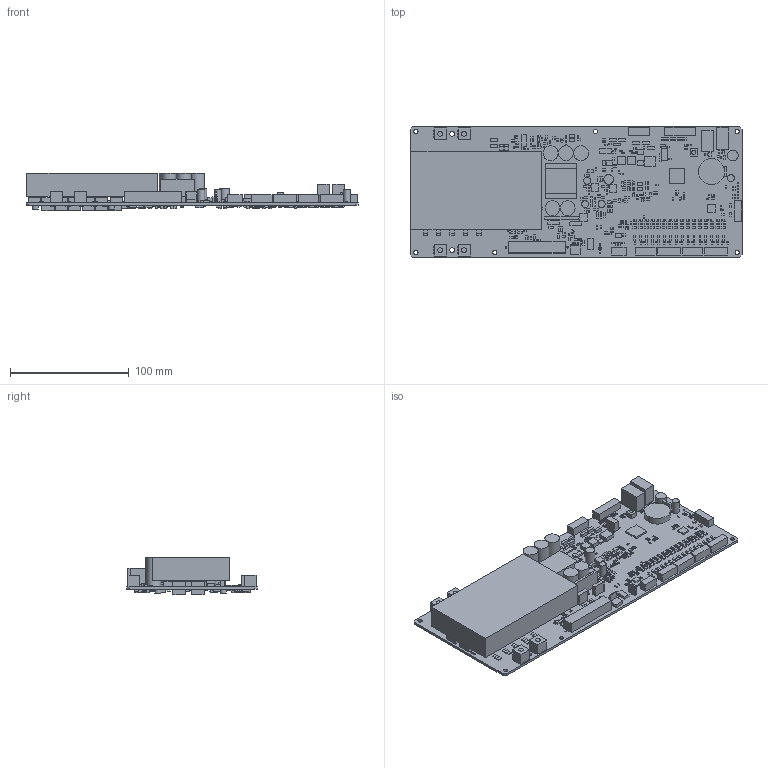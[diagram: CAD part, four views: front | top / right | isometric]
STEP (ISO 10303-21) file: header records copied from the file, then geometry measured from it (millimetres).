
FILE_DESCRIPTION(('Open CASCADE Model'),'2;1');
FILE_NAME('Open CASCADE Shape Model','2024-07-10T18:24:06',('Author'),( 'Open CASCADE'),'Open CASCADE STEP processor 6.2','Open CASCADE 6.2' ,'Unknown');
FILE_SCHEMA(('AUTOMOTIVE_DESIGN { 1 0 10303 214 1 1 1 1 }'));
Length unit declared in the file: millimetre
Products named in the file (1033): PCB; Board; D30; 1030491920; Extruded; D28; R470; 1058377728; R469; C65; 1058377216; RV2; 1030488080; RV1; 1030490128; D127; 1058386816; K2; 1030492176; K1; J12; 1058383616; R458; 1058377472; D125; C224; C223; C222; R461; R447; JP1; 1030489488; J1; 1058396672; F5; 1030487952; F4; R463; 1058377600; D115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
Assembly tree (1916 placements, depth 4):
  PCB
    Board
    D30
      1030491920
        Extruded
    D28
      1030491920
        Extruded
    R470
      1058377728
        Extruded
    R469
      1058377728
        Extruded
    C65
      1058377216
        Extruded
    RV2
      1030488080
        Extruded
    RV1
      1030490128
        Extruded
    D127
      1058386816
        Extruded
    K2
      1030492176
        Extruded
    K1
      1030492176
        Extruded
    J12
      1058383616
        Extruded
    R458
      1058377472
        Extruded
    D125
      1058386816
        Extruded
    C224
      1058377728
        Extruded
    C223
      1058377728
        Extruded
    C222
      1058377472
        Extruded
    R461
      1058377472
        Extruded
    R447
      1058377728
        Extruded
    JP1
      1030489488
        Extruded
    J1
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Bounding box: 280 x 110 x 31.57 mm (x, y, z)
Volume: 280892.2 mm3; surface area: 142637 mm2
Topology: 958 solids, 958 shells, 6077 faces, 12483 edges, 8322 vertices
Faces by surface type: plane 5868, cylinder 209
Full cylindrical faces by diameter (mm): 0.8 x52, 0.9 x28, 1 x40, 1.016 x6, 1.2 x17, 1.3 x2, 1.4 x24, 1.5 x4, 1.6 x2, 2.5 x1, 3.4 x1, 3.5 x6, 4 x10, 5 x4, 6 x4, 8 x1, 9 x1, 12.5 x5, 22 x1
Entity records: 65269 total; most frequent: CARTESIAN_POINT 10329, DIRECTION 9489, LINE 3589, VECTOR 3589, AXIS2_PLACEMENT_3D 2950, PRODUCT_DEFINITION_SHAPE 2949, ORIENTED_EDGE 2934, PCURVE 2934
